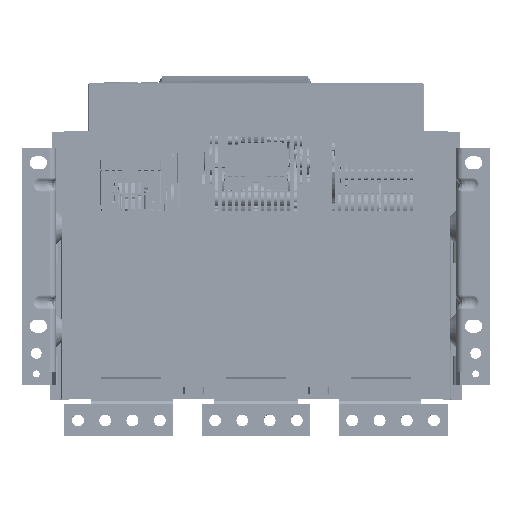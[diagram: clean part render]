
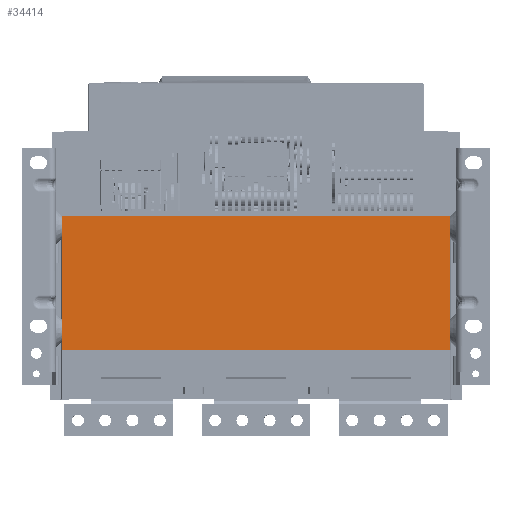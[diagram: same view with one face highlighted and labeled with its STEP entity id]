
A CAD part, top view. The second image highlights one B-rep face of the part: STEP entity #34414.
In plain terms, the highlighted planar face has unit normal (0, 0, 1).
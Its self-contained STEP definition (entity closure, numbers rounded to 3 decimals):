
#686=DIRECTION('',(1.,0.,0.));
#687=VECTOR('',#686,356.);
#688=CARTESIAN_POINT('',(-178.,0.,150.));
#689=LINE('',#688,#687);
#2014=DIRECTION('',(1.,0.,0.));
#2015=VECTOR('',#2014,356.);
#2016=CARTESIAN_POINT('',(-178.,123.,150.));
#2017=LINE('',#2016,#2015);
#9802=DIRECTION('',(0.,1.,0.));
#9803=VECTOR('',#9802,123.);
#9804=CARTESIAN_POINT('',(178.,0.,150.));
#9805=LINE('',#9804,#9803);
#16096=DIRECTION('',(0.,1.,0.));
#16097=VECTOR('',#16096,123.);
#16098=CARTESIAN_POINT('',(-178.,0.,150.));
#16099=LINE('',#16098,#16097);
#18400=CARTESIAN_POINT('',(-178.,0.,150.));
#18401=VERTEX_POINT('',#18400);
#18402=CARTESIAN_POINT('',(178.,0.,150.));
#18403=VERTEX_POINT('',#18402);
#18416=CARTESIAN_POINT('',(-178.,123.,150.));
#18417=CARTESIAN_POINT('',(178.,123.,150.));
#18418=VERTEX_POINT('',#18416);
#18419=VERTEX_POINT('',#18417);
#34403=CARTESIAN_POINT('',(-178.,0.,150.));
#34404=DIRECTION('',(0.,0.,1.));
#34405=DIRECTION('',(1.,0.,0.));
#34406=AXIS2_PLACEMENT_3D('',#34403,#34404,#34405);
#34407=PLANE('',#34406);
#34408=ORIENTED_EDGE('',*,*,#21999,.F.);
#34409=ORIENTED_EDGE('',*,*,#29385,.T.);
#34410=ORIENTED_EDGE('',*,*,#22542,.T.);
#34411=ORIENTED_EDGE('',*,*,#28496,.F.);
#34412=EDGE_LOOP('',(#34408,#34409,#34410,#34411));
#34413=FACE_OUTER_BOUND('',#34412,.F.);
#34414=ADVANCED_FACE('',(#34413),#34407,.T.);
#21999=EDGE_CURVE('',#18401,#18403,#689,.T.);
#22542=EDGE_CURVE('',#18418,#18419,#2017,.T.);
#28496=EDGE_CURVE('',#18403,#18419,#9805,.T.);
#29385=EDGE_CURVE('',#18401,#18418,#16099,.T.);
